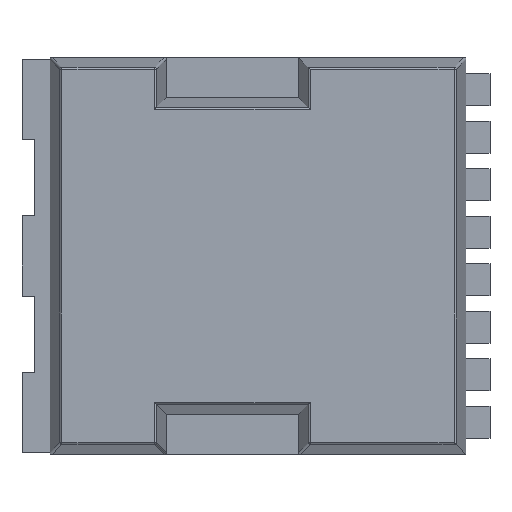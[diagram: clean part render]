
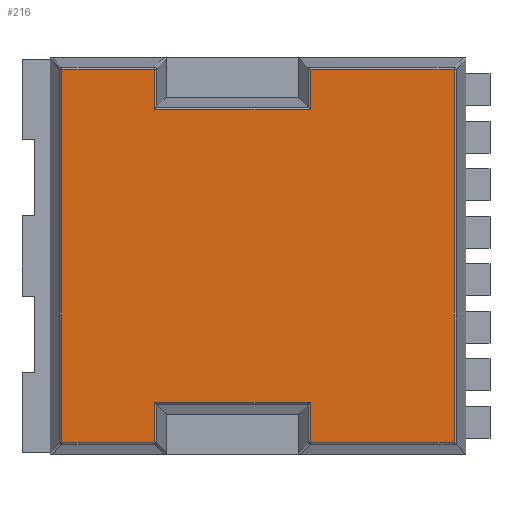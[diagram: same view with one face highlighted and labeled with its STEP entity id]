
A CAD part, top view. The second image highlights one B-rep face of the part: STEP entity #216.
In plain terms, the highlighted planar face has unit normal (0, 0, 1).
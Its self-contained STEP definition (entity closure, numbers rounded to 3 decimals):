
#216=ADVANCED_FACE('',(#540),#390,.T.);
#390=PLANE('',#3472);
#540=FACE_OUTER_BOUND('',#714,.T.);
#714=EDGE_LOOP('',(#1356,#1357,#1358,#1359,#1360,#1361,#1362,#1363,#1364,
#1365,#1366,#1367));
#1356=ORIENTED_EDGE('',*,*,#2339,.T.);
#1357=ORIENTED_EDGE('',*,*,#2340,.T.);
#1358=ORIENTED_EDGE('',*,*,#2341,.T.);
#1359=ORIENTED_EDGE('',*,*,#2342,.T.);
#1360=ORIENTED_EDGE('',*,*,#2343,.T.);
#1361=ORIENTED_EDGE('',*,*,#2344,.T.);
#1362=ORIENTED_EDGE('',*,*,#2345,.T.);
#1363=ORIENTED_EDGE('',*,*,#2346,.T.);
#1364=ORIENTED_EDGE('',*,*,#2347,.T.);
#1365=ORIENTED_EDGE('',*,*,#2348,.T.);
#1366=ORIENTED_EDGE('',*,*,#2349,.T.);
#1367=ORIENTED_EDGE('',*,*,#2350,.T.);
#1946=VERTEX_POINT('',#5056);
#1947=VERTEX_POINT('',#5057);
#1948=VERTEX_POINT('',#5059);
#1949=VERTEX_POINT('',#5061);
#1950=VERTEX_POINT('',#5063);
#1951=VERTEX_POINT('',#5065);
#1952=VERTEX_POINT('',#5067);
#1953=VERTEX_POINT('',#5069);
#1954=VERTEX_POINT('',#5071);
#1955=VERTEX_POINT('',#5073);
#1956=VERTEX_POINT('',#5075);
#1957=VERTEX_POINT('',#5077);
#2339=EDGE_CURVE('',#1946,#1947,#2807,.T.);
#2340=EDGE_CURVE('',#1947,#1948,#2808,.T.);
#2341=EDGE_CURVE('',#1948,#1949,#2809,.T.);
#2342=EDGE_CURVE('',#1949,#1950,#2810,.T.);
#2343=EDGE_CURVE('',#1950,#1951,#2811,.T.);
#2344=EDGE_CURVE('',#1951,#1952,#2812,.T.);
#2345=EDGE_CURVE('',#1952,#1953,#2813,.T.);
#2346=EDGE_CURVE('',#1953,#1954,#2814,.T.);
#2347=EDGE_CURVE('',#1954,#1955,#2815,.T.);
#2348=EDGE_CURVE('',#1955,#1956,#2816,.T.);
#2349=EDGE_CURVE('',#1956,#1957,#2817,.T.);
#2350=EDGE_CURVE('',#1957,#1946,#2818,.T.);
#2807=LINE('',#5055,#3243);
#2808=LINE('',#5058,#3244);
#2809=LINE('',#5060,#3245);
#2810=LINE('',#5062,#3246);
#2811=LINE('',#5064,#3247);
#2812=LINE('',#5066,#3248);
#2813=LINE('',#5068,#3249);
#2814=LINE('',#5070,#3250);
#2815=LINE('',#5072,#3251);
#2816=LINE('',#5074,#3252);
#2817=LINE('',#5076,#3253);
#2818=LINE('',#5078,#3254);
#3243=VECTOR('',#4085,1.);
#3244=VECTOR('',#4086,1.);
#3245=VECTOR('',#4087,1.);
#3246=VECTOR('',#4088,1.);
#3247=VECTOR('',#4089,1.);
#3248=VECTOR('',#4090,1.);
#3249=VECTOR('',#4091,1.);
#3250=VECTOR('',#4092,1.);
#3251=VECTOR('',#4093,1.);
#3252=VECTOR('',#4094,1.);
#3253=VECTOR('',#4095,1.);
#3254=VECTOR('',#4096,1.);
#3472=AXIS2_PLACEMENT_3D('',#5079,#4097,#4098);
#4085=DIRECTION('',(-1.,0.,0.));
#4086=DIRECTION('',(0.,-1.,0.));
#4087=DIRECTION('',(-1.,0.,0.));
#4088=DIRECTION('',(0.,1.,0.));
#4089=DIRECTION('',(-1.,0.,0.));
#4090=DIRECTION('',(0.,-1.,0.));
#4091=DIRECTION('',(1.,0.,0.));
#4092=DIRECTION('',(0.,1.,0.));
#4093=DIRECTION('',(1.,0.,0.));
#4094=DIRECTION('',(0.,-1.,0.));
#4095=DIRECTION('',(1.,0.,0.));
#4096=DIRECTION('',(0.,1.,0.));
#4097=DIRECTION('',(0.,0.,1.));
#4098=DIRECTION('',(1.,0.,0.));
#5055=CARTESIAN_POINT('',(3.509,-3.854,-1.83));
#5056=CARTESIAN_POINT('',(8.403,-3.854,-1.83));
#5057=CARTESIAN_POINT('',(4.816,-3.854,-1.83));
#5058=CARTESIAN_POINT('',(4.816,-8.508,-1.83));
#5059=CARTESIAN_POINT('',(4.816,-4.854,-1.83));
#5060=CARTESIAN_POINT('',(3.509,-4.854,-1.83));
#5061=CARTESIAN_POINT('',(0.923,-4.854,-1.83));
#5062=CARTESIAN_POINT('',(0.923,-8.508,-1.83));
#5063=CARTESIAN_POINT('',(0.923,-3.854,-1.83));
#5064=CARTESIAN_POINT('',(3.509,-3.854,-1.83));
#5065=CARTESIAN_POINT('',(-1.384,-3.854,-1.83));
#5066=CARTESIAN_POINT('',(-1.384,-8.508,-1.83));
#5067=CARTESIAN_POINT('',(-1.384,-13.161,-1.83));
#5068=CARTESIAN_POINT('',(3.509,-13.161,-1.83));
#5069=CARTESIAN_POINT('',(0.923,-13.161,-1.83));
#5070=CARTESIAN_POINT('',(0.923,-8.508,-1.83));
#5071=CARTESIAN_POINT('',(0.923,-12.161,-1.83));
#5072=CARTESIAN_POINT('',(3.509,-12.161,-1.83));
#5073=CARTESIAN_POINT('',(4.816,-12.161,-1.83));
#5074=CARTESIAN_POINT('',(4.816,-8.508,-1.83));
#5075=CARTESIAN_POINT('',(4.816,-13.161,-1.83));
#5076=CARTESIAN_POINT('',(3.509,-13.161,-1.83));
#5077=CARTESIAN_POINT('',(8.403,-13.161,-1.83));
#5078=CARTESIAN_POINT('',(8.403,-8.508,-1.83));
#5079=CARTESIAN_POINT('',(3.509,-8.508,-1.83));
